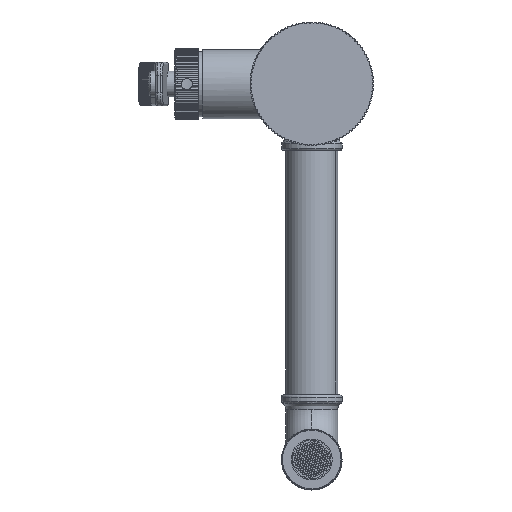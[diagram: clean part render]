
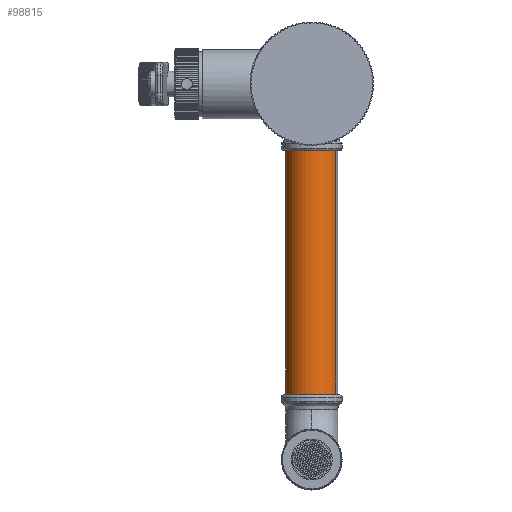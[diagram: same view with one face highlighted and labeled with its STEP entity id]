
A CAD part, left-side view. The second image highlights one B-rep face of the part: STEP entity #98815.
In plain terms, the highlighted cylindrical face has radius 12 mm (diameter 24 mm), a partial arc.
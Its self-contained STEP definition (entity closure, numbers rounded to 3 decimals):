
#4847 = CYLINDRICAL_SURFACE ( 'NONE', #136235, 12. ) ;
#8283 = VERTEX_POINT ( 'NONE', #25543 ) ;
#10237 = CIRCLE ( 'NONE', #115459, 12. ) ;
#11669 = EDGE_CURVE ( 'NONE', #33199, #37066, #47039, .T. ) ;
#12259 = CARTESIAN_POINT ( 'NONE',  ( 84.694, -50.026, -144.129 ) ) ;
#12627 = DIRECTION ( 'NONE',  ( -0.004, 0., -1. ) ) ;
#14023 = ORIENTED_EDGE ( 'NONE', *, *, #62039, .T. ) ;
#14974 = CIRCLE ( 'NONE', #34087, 12. ) ;
#16029 = EDGE_LOOP ( 'NONE', ( #14023, #74600, #55190, #21064, #63955, #69824 ) ) ;
#21064 = ORIENTED_EDGE ( 'NONE', *, *, #40885, .T. ) ;
#21225 = DIRECTION ( 'NONE',  ( -0.402, -0.916, 0.002 ) ) ;
#21969 = EDGE_CURVE ( 'NONE', #37066, #114108, #84055, .T. ) ;
#25543 = CARTESIAN_POINT ( 'NONE',  ( 79.876, -61.016, -144.11 ) ) ;
#30949 = VECTOR ( 'NONE', #49789, 1000. ) ;
#33199 = VERTEX_POINT ( 'NONE', #78493 ) ;
#33915 = DIRECTION ( 'NONE',  ( 0., 1., 0. ) ) ;
#34087 = AXIS2_PLACEMENT_3D ( 'NONE', #90933, #116283, #69186 ) ;
#34346 = CARTESIAN_POINT ( 'NONE',  ( 89.989, -39.052, -29.648 ) ) ;
#37066 = VERTEX_POINT ( 'NONE', #39787 ) ;
#39787 = CARTESIAN_POINT ( 'NONE',  ( 89.513, -39.036, -144.147 ) ) ;
#40885 = EDGE_CURVE ( 'NONE', #114108, #8283, #43995, .T. ) ;
#43995 = CIRCLE ( 'NONE', #125235, 12. ) ;
#45238 = VERTEX_POINT ( 'NONE', #68201 ) ;
#47039 = LINE ( 'NONE', #34346, #112001 ) ;
#49789 = DIRECTION ( 'NONE',  ( -0.004, 0., -1. ) ) ;
#55190 = ORIENTED_EDGE ( 'NONE', *, *, #21969, .T. ) ;
#57893 = DIRECTION ( 'NONE',  ( 0.004, 0., 1. ) ) ;
#62039 = EDGE_CURVE ( 'NONE', #45238, #33199, #10237, .T. ) ;
#63955 = ORIENTED_EDGE ( 'NONE', *, *, #73521, .F. ) ;
#64654 = CARTESIAN_POINT ( 'NONE',  ( 85.17, -50.043, -29.63 ) ) ;
#68201 = CARTESIAN_POINT ( 'NONE',  ( 85.168, -38.042, -30.128 ) ) ;
#69059 = CARTESIAN_POINT ( 'NONE',  ( 80.35, -61.033, -30.111 ) ) ;
#69186 = DIRECTION ( 'NONE',  ( 0., 1., 0. ) ) ;
#69824 = ORIENTED_EDGE ( 'NONE', *, *, #89361, .T. ) ;
#73521 = EDGE_CURVE ( 'NONE', #83790, #8283, #141790, .T. ) ;
#74600 = ORIENTED_EDGE ( 'NONE', *, *, #11669, .T. ) ;
#78493 = CARTESIAN_POINT ( 'NONE',  ( 89.987, -39.052, -30.148 ) ) ;
#79382 = DIRECTION ( 'NONE',  ( 0., -1., 0. ) ) ;
#81900 = CARTESIAN_POINT ( 'NONE',  ( 84.695, -38.026, -144.127 ) ) ;
#83790 = VERTEX_POINT ( 'NONE', #69059 ) ;
#84055 = CIRCLE ( 'NONE', #93655, 12. ) ;
#88639 = DIRECTION ( 'NONE',  ( -0.004, 0., -1. ) ) ;
#89361 = EDGE_CURVE ( 'NONE', #83790, #45238, #14974, .T. ) ;
#90837 = CARTESIAN_POINT ( 'NONE',  ( 85.168, -50.042, -30.13 ) ) ;
#90933 = CARTESIAN_POINT ( 'NONE',  ( 85.168, -50.042, -30.13 ) ) ;
#93655 = AXIS2_PLACEMENT_3D ( 'NONE', #12259, #57893, #79382 ) ;
#95655 = DIRECTION ( 'NONE',  ( 0.004, 0., 1. ) ) ;
#98815 = ADVANCED_FACE ( 'NONE', ( #108852 ), #4847, .T. ) ;
#106879 = CARTESIAN_POINT ( 'NONE',  ( 84.694, -50.026, -144.129 ) ) ;
#108852 = FACE_OUTER_BOUND ( 'NONE', #16029, .T. ) ;
#112001 = VECTOR ( 'NONE', #12627, 1000. ) ;
#114108 = VERTEX_POINT ( 'NONE', #81900 ) ;
#115459 = AXIS2_PLACEMENT_3D ( 'NONE', #90837, #139315, #33915 ) ;
#116283 = DIRECTION ( 'NONE',  ( -0.004, 0., -1. ) ) ;
#123575 = CARTESIAN_POINT ( 'NONE',  ( 80.352, -61.033, -29.611 ) ) ;
#125235 = AXIS2_PLACEMENT_3D ( 'NONE', #106879, #95655, #130016 ) ;
#130016 = DIRECTION ( 'NONE',  ( 0., -1., 0. ) ) ;
#136235 = AXIS2_PLACEMENT_3D ( 'NONE', #64654, #88639, #21225 ) ;
#139315 = DIRECTION ( 'NONE',  ( -0.004, 0., -1. ) ) ;
#141790 = LINE ( 'NONE', #123575, #30949 ) ;
